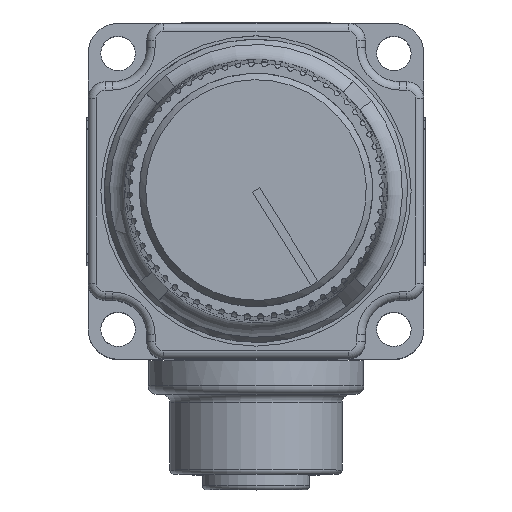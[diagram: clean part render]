
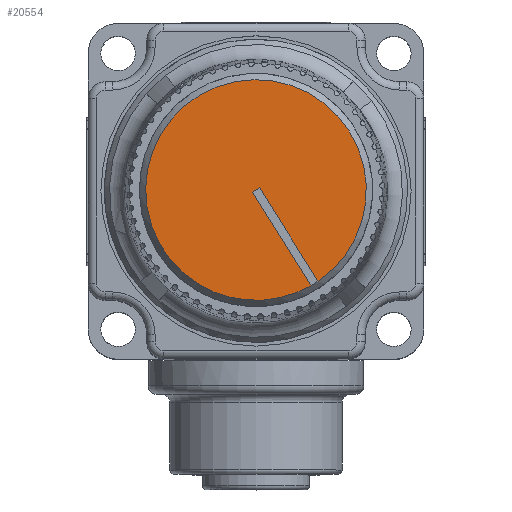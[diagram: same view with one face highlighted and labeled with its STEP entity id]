
A CAD part, top view. The second image highlights one B-rep face of the part: STEP entity #20554.
In plain terms, the highlighted planar face has unit normal (0, 0, 1).
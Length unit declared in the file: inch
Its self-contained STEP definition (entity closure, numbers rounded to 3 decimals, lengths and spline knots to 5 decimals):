
#2238=LINE('',#40183,#3656);
#2243=LINE('',#40202,#3661);
#2246=LINE('',#40207,#3664);
#3656=VECTOR('',#27254,0.3937);
#3661=VECTOR('',#27265,0.3937);
#3664=VECTOR('',#27270,0.3937);
#5007=FACE_OUTER_BOUND('',#6232,.T.);
#6232=EDGE_LOOP('',(#16715,#16716,#16717,#16718,#16719));
#7119=CIRCLE('',#22455,0.4);
#7120=CIRCLE('',#22456,0.4);
#8884=VERTEX_POINT('',#40181);
#8885=VERTEX_POINT('',#40182);
#8888=VERTEX_POINT('',#40195);
#8890=VERTEX_POINT('',#40201);
#8892=VERTEX_POINT('',#40211);
#11539=EDGE_CURVE('',#8884,#8885,#2238,.T.);
#11546=EDGE_CURVE('',#8890,#8888,#2243,.T.);
#11549=EDGE_CURVE('',#8885,#8890,#2246,.T.);
#11551=EDGE_CURVE('',#8888,#8892,#7119,.T.);
#11552=EDGE_CURVE('',#8892,#8884,#7120,.T.);
#16715=ORIENTED_EDGE('',*,*,#11546,.T.);
#16716=ORIENTED_EDGE('',*,*,#11551,.T.);
#16717=ORIENTED_EDGE('',*,*,#11552,.T.);
#16718=ORIENTED_EDGE('',*,*,#11539,.T.);
#16719=ORIENTED_EDGE('',*,*,#11549,.T.);
#18439=PLANE('',#22459);
#20554=ADVANCED_FACE('',(#5007),#18439,.T.);
#22455=AXIS2_PLACEMENT_3D('',#40212,#27276,#27277);
#22456=AXIS2_PLACEMENT_3D('',#40213,#27278,#27279);
#22459=AXIS2_PLACEMENT_3D('',#40219,#27285,#27286);
#27254=DIRECTION('',(-0.532,0.847,0.));
#27265=DIRECTION('',(0.532,-0.847,0.));
#27270=DIRECTION('',(0.847,0.532,0.));
#27276=DIRECTION('center_axis',(0.,0.,1.));
#27277=DIRECTION('ref_axis',(0.847,0.532,0.));
#27278=DIRECTION('center_axis',(0.,0.,1.));
#27279=DIRECTION('ref_axis',(0.847,0.532,0.));
#27285=DIRECTION('center_axis',(0.,0.,1.));
#27286=DIRECTION('ref_axis',(1.,0.,0.));
#40181=CARTESIAN_POINT('',(0.3665,-0.44656,1.8705));
#40182=CARTESIAN_POINT('',(0.15401,-0.108,1.8705));
#40183=CARTESIAN_POINT('',(0.3665,-0.44656,1.8705));
#40195=CARTESIAN_POINT('',(0.39191,-0.43062,1.8705));
#40201=CARTESIAN_POINT('',(0.17942,-0.09206,1.8705));
#40202=CARTESIAN_POINT('',(0.17942,-0.09206,1.8705));
#40207=CARTESIAN_POINT('',(0.15401,-0.108,1.8705));
#40211=CARTESIAN_POINT('',(0.01456,-0.46996,1.8705));
#40212=CARTESIAN_POINT('Origin',(0.16672,-0.10003,1.8705));
#40213=CARTESIAN_POINT('Origin',(0.16672,-0.10003,1.8705));
#40219=CARTESIAN_POINT('Origin',(-0.18205,-0.31586,
1.8705));
